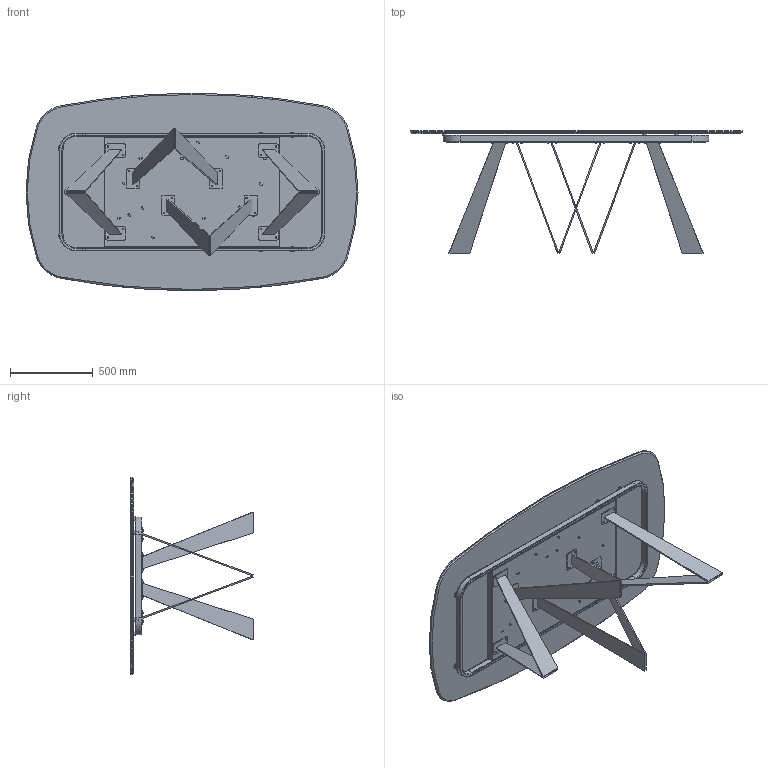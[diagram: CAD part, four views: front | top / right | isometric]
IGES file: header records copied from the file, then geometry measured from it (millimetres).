
Start section: SolidWorks IGES file using analytic representation for surfaces
Global section: file name: Y:\eforma\TECNICO\SOLIDWORKS\E-FORMA\1-TAVOLI\NOA TAVOLO\02 parts\NO40C_Noa_200x119x75h_Ceramic Shaped.IGS; native system: SolidWorks 2022; preprocessor: SolidWorks 2022; author: eforma.tech; date: 240807.163328; units: millimetre
Bounding box: 2000 x 735.8 x 1190 mm (x, y, z)
Volume: 43382867.3 mm3; surface area: 12704862 mm2
Topology: 71 solids, 71 shells, 1497 faces, 3421 edges, 2050 vertices
Faces by surface type: revolution 911, plane 586
